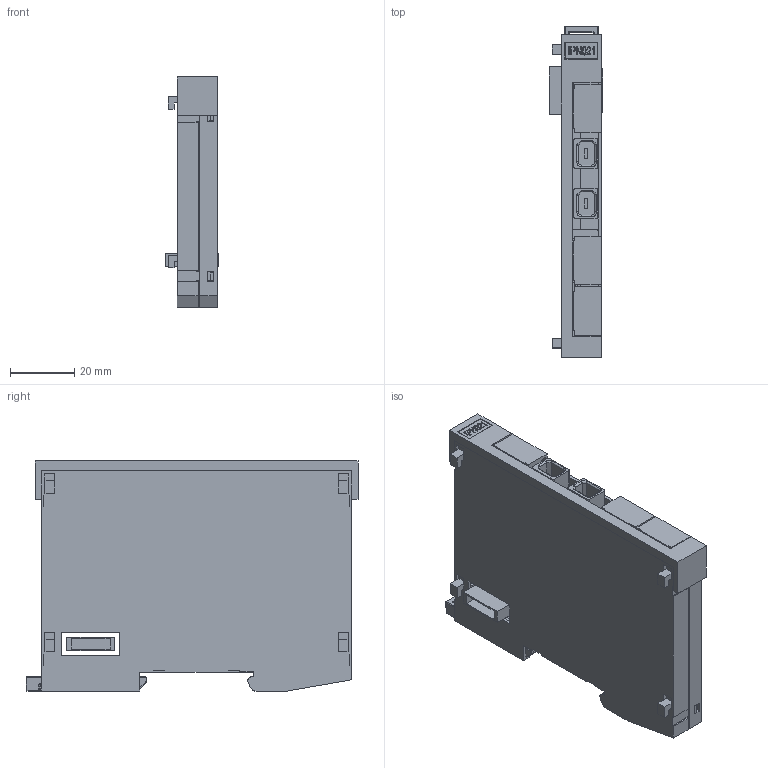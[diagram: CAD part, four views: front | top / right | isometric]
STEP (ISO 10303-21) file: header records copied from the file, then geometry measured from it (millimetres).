
FILE_DESCRIPTION (( 'STEP AP214' ), '1' );
FILE_NAME ('IPN021.STEP', '2015-08-18T11:37:43', ( 'SIGMATEK GmbH & Co KG' ), ( 'SIGMATEK GmbH & Co KG' ), 'SwSTEP 2.0', 'SolidWorks 2013', '' );
FILE_SCHEMA (( 'AUTOMOTIVE_DESIGN' ));
Length unit declared in the file: millimetre
Products named in the file (11): IPN021; Steckerabdeckung_Var 9; LP_IPN021; Dummy_4080225346 Erni Stift; Dummy_4080225345 Erni Buchse; Dummy_4080225387 c-1981080-1-g-3d; S-Dias Rasthaken 20130313; Schieber_f Suport; S-Dias Schale rechts_f Suport; S-Dias Schale links_f Suport; 4110251342_MF 10-5 MC CABUR_1854510000
Assembly tree (13 placements, depth 3):
  IPN021
    4110251342_MF 10-5 MC CABUR_1854510000
    S-Dias Schale links_f Suport
    S-Dias Schale rechts_f Suport
    Schieber_f Suport
    S-Dias Rasthaken 20130313
    LP_IPN021
      Dummy_4080225387 c-1981080-1-g-3d  x2
      Dummy_4080225345 Erni Buchse
      Dummy_4080225346 Erni Stift
    Steckerabdeckung_Var 9  x3
Bounding box: 16.8 x 103.61 x 71.79 mm (x, y, z)
Volume: 22900 mm3; surface area: 42859.8 mm2
Topology: 12 solids, 12 shells, 1060 faces, 3036 edges, 2006 vertices
Faces by surface type: plane 748, cylinder 173, bspline 79, cone 28, torus 19, sphere 13
Entity records: 36463 total; most frequent: CARTESIAN_POINT 9502, ORIENTED_EDGE 5190, DIRECTION 4032, EDGE_CURVE 2595, VECTOR 1858, LINE 1858, VERTEX_POINT 1722, AXIS2_PLACEMENT_3D 1087
